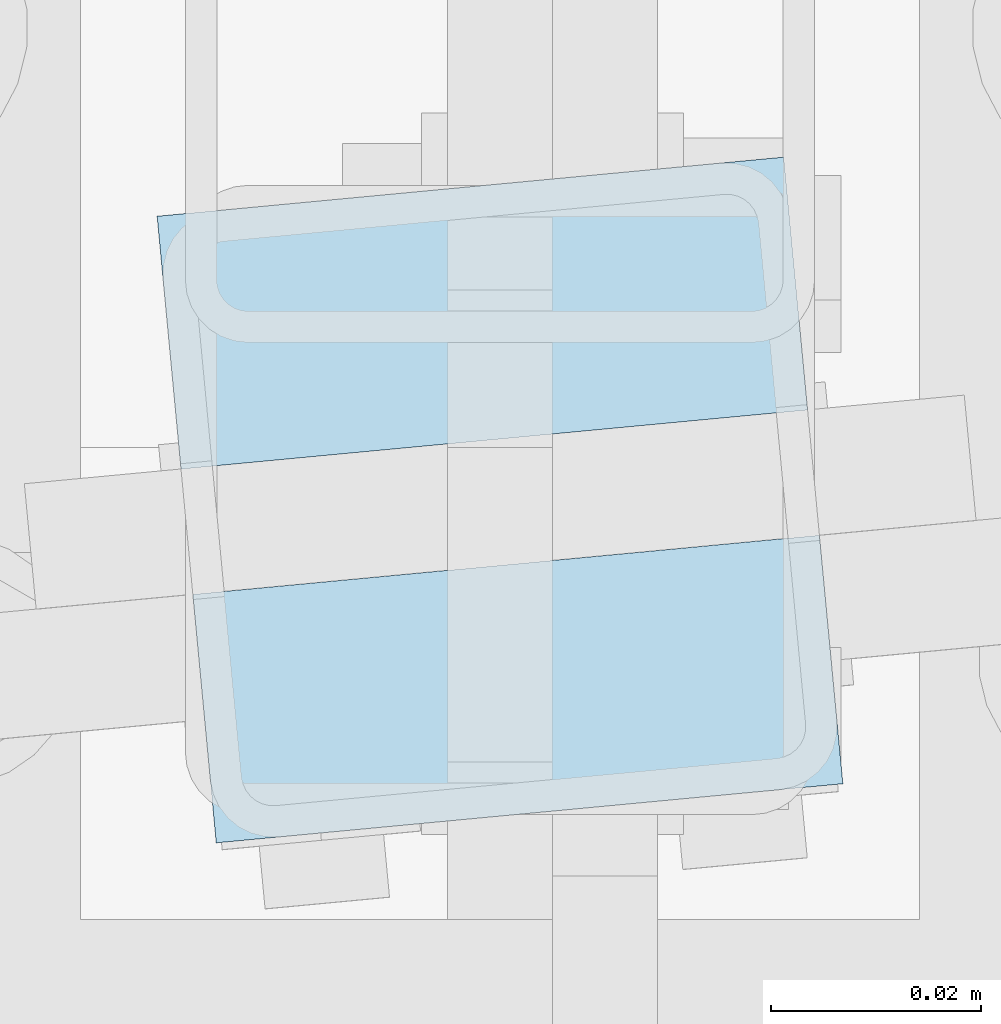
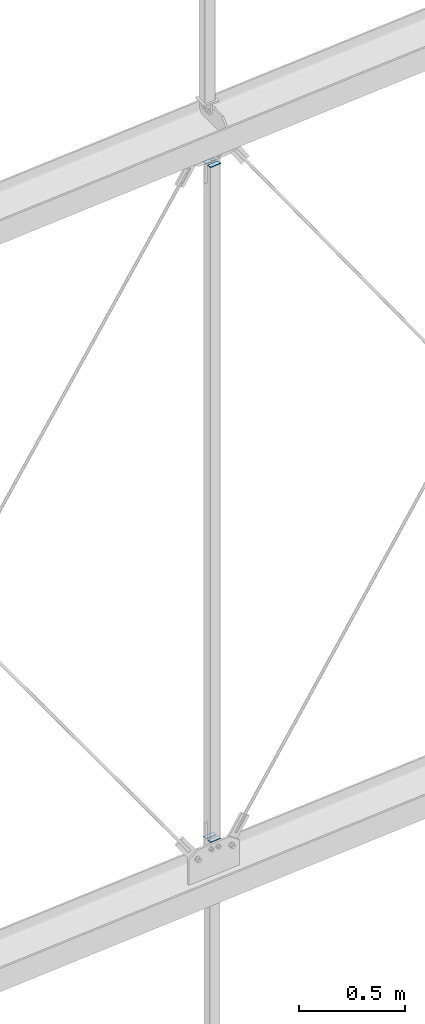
# One storey, part 213 of 271: 4 plates, 1 element without a shape of its own.
"""IFC2X3 building model written with IfcOpenShell, lengths in millimetres."""

from ifc_helpers import new_model, si_unit, frame, origin_with_axes, place, context, subcontext, project, spatial, polyline, outline, extrude, material, type_object, element, aggregate, save


model = new_model("IFC2X3")

# Units and contexts
model_context = context("Model", 3, precision=1e-05, world=origin_with_axes())
body_context = subcontext(model_context, "Body", "Model", "MODEL_VIEW")
ifc_project = project(units=[si_unit("LENGTHUNIT", "METRE", prefix="MILLI"), si_unit("AREAUNIT", "SQUARE_METRE"), si_unit("VOLUMEUNIT", "CUBIC_METRE"), si_unit("MASSUNIT", "GRAM", prefix="KILO"), si_unit("TIMEUNIT", "SECOND"), si_unit("PLANEANGLEUNIT", "RADIAN"), si_unit("SOLIDANGLEUNIT", "STERADIAN"), si_unit("THERMODYNAMICTEMPERATUREUNIT", "DEGREE_CELSIUS"), si_unit("LUMINOUSINTENSITYUNIT", "LUMEN")], contexts=[model_context])

# Site, building, storey
site_placement = place(None, origin_with_axes())
site = spatial("IfcSite", under=ifc_project, at=site_placement, Name="Undefined", CompositionType="ELEMENT")
building_placement = place(site_placement, origin_with_axes())
building = spatial("IfcBuilding", under=site, at=building_placement, Name="Undefined", CompositionType="ELEMENT")
storey_placement = place(building_placement, origin_with_axes())
storey = spatial("IfcBuildingStorey", under=building, at=storey_placement, Name="Undefined", CompositionType="ELEMENT", Elevation=0.0)

# Assembly, plates
assembly_placement = place(storey_placement, origin_with_axes())
assembly = element("IfcElementAssembly", 1, at=assembly_placement, inside=storey, AssemblyPlace="NOTDEFINED", PredefinedType="RIGID_FRAME")
ifc_material = material(Name="STEEL/S355JR")
plate_type = type_object("IfcPlateType", Name="BL4*24", PredefinedType="NOTDEFINED")
plate_1_placement = place(assembly_placement, frame((9495.69023154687, 4032.37501641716, 14534.6614744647), z_axis=(0.0, 0.0, 1.0), x_axis=(0.0939225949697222, -0.995579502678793, 0.0)))
plate_1 = element("IfcPlate", 2, at=plate_1_placement, type_object=plate_type, material=ifc_material, Name="BLACHA", ObjectType="BL4*24", context=body_context, shape_type="SweptSolid", body=[
    extrude(outline(polyline([(0.0, 0.0), (24.2147998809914, 1.36424205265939e-12), (24.2147998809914, 60.0007209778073), (9.09494701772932e-13, 60.0007209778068), (0.0, 0.0)])), frame((0.0, 0.0, -2.0), z_axis=(0.0, 0.0, 1.0), x_axis=(1.0, 0.0, 0.0)), (0.0, 0.0, 1.0), 4.0),
])
plate_2_placement = place(assembly_placement, frame((9499.09161948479, 3996.32030442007, 14534.6614744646), z_axis=(0.0, 0.0, 1.0), x_axis=(0.0939225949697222, -0.995579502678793, 0.0)))
plate_2 = element("IfcPlate", 3, at=plate_2_placement, type_object=plate_type, material=ifc_material, Name="BLACHA", ObjectType="BL4*24", context=body_context, shape_type="SweptSolid", body=[
    extrude(outline(polyline([(0.0, 0.0), (23.7859210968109, 9.09494701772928e-13), (23.7859210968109, 60.0007209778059), (9.09494701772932e-13, 60.0007209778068), (0.0, 0.0)])), frame((0.0, 0.0, -2.0), z_axis=(0.0, 0.0, 1.0), x_axis=(1.0, 0.0, 0.0)), (0.0, 0.0, 1.0), 4.0),
])
plate_3_placement = place(assembly_placement, frame((9555.42571924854, 4038.01043980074, 18434.0373809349), z_axis=(0.0, 0.0, -1.0), x_axis=(0.0939225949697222, -0.995579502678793, 0.0)))
plate_3 = element("IfcPlate", 4, at=plate_3_placement, type_object=plate_type, material=ifc_material, Name="BLACHA", ObjectType="BL4*24", context=body_context, shape_type="SweptSolid", body=[
    extrude(outline(polyline([(0.0, 0.0), (24.1998863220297, -4.54747350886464e-13), (24.1998863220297, 60.0007209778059), (9.09494701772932e-13, 60.0007209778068), (0.0, 0.0)])), frame((0.0, 0.0, -2.0), z_axis=(0.0, 0.0, 1.0), x_axis=(1.0, 0.0, 0.0)), (0.0, 0.0, 1.0), 4.0),
])
plate_4_placement = place(assembly_placement, frame((9558.82570642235, 4001.97057590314, 18434.0373809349), z_axis=(0.0, 0.0, -1.0), x_axis=(0.0939225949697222, -0.995579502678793, 0.0)))
plate_4 = element("IfcPlate", 5, at=plate_4_placement, type_object=plate_type, material=ifc_material, Name="BLACHA", ObjectType="BL4*24", context=body_context, shape_type="SweptSolid", body=[
    extrude(outline(polyline([(0.0, 0.0), (23.8008346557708, 0.0), (23.8008346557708, 60.0007209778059), (9.09494701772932e-13, 60.0007209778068), (0.0, 0.0)])), frame((0.0, 0.0, -2.0), z_axis=(0.0, 0.0, 1.0), x_axis=(1.0, 0.0, 0.0)), (0.0, 0.0, 1.0), 4.0),
])
aggregate(assembly, [plate_1, plate_2, plate_3, plate_4])

save(model, "model.ifc")
